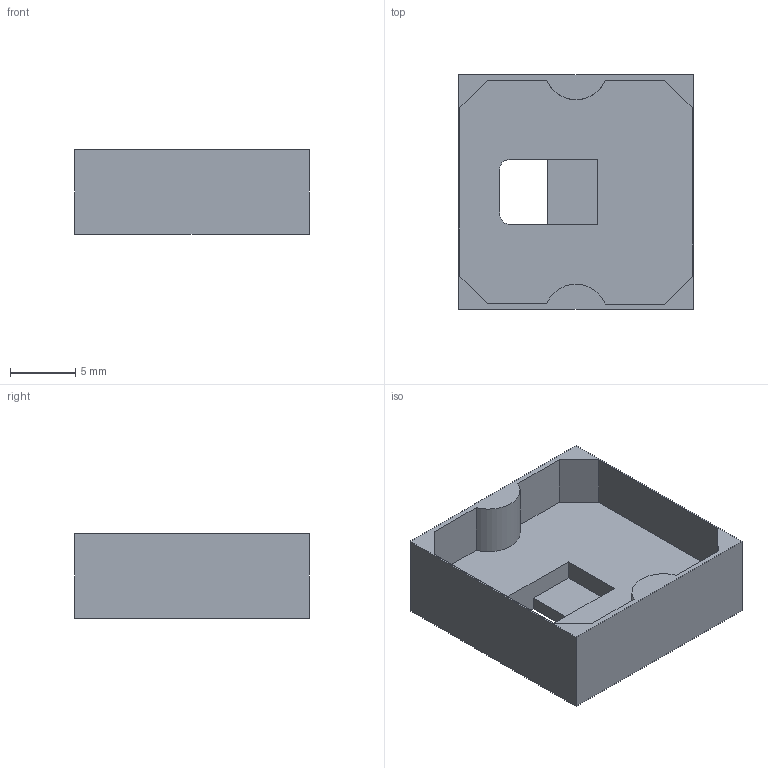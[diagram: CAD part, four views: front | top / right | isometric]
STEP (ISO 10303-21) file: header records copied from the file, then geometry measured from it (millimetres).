
FILE_DESCRIPTION(('Open CASCADE Model'),'2;1');
FILE_NAME('Open CASCADE Shape Model','2026-05-31T19:44:05',('Author'),( 'Open CASCADE'),'Open CASCADE STEP processor 7.6','Open CASCADE 7.6' ,'Unknown');
FILE_SCHEMA(('AP242_MANAGED_MODEL_BASED_3D_ENGINEERING_MIM_LF. {1 0 10303 442 1 1 4 }'));
Length unit declared in the file: millimetre
Products named in the file (1): Open CASCADE STEP translator 7.6 1
Bounding box: 18 x 18 x 6.5 mm (x, y, z)
Volume: 884.8 mm3; surface area: 1402.6 mm2
Topology: 1 solids, 1 shells, 31 faces, 84 edges, 56 vertices
Faces by surface type: plane 25, cylinder 6
Entity records: 2076 total; most frequent: CARTESIAN_POINT 340, DIRECTION 328, LINE 228, VECTOR 228, ORIENTED_EDGE 168, PCURVE 168, DEFINITIONAL_REPRESENTATION 168, EDGE_CURVE 84
